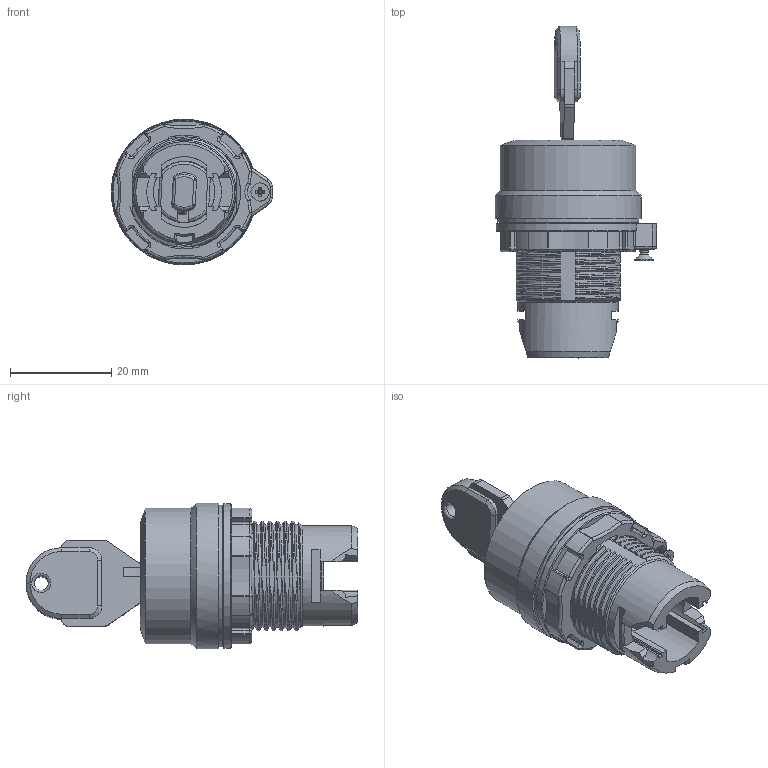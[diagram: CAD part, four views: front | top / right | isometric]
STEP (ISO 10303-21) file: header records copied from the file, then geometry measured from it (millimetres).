
FILE_DESCRIPTION(/* description */ (''),/* implementation_level */ '2;1');
FILE_NAME(/* name */ 'Y1钥匙钮头部.stp',/* time_stamp */ '2024-05-17T18:33:41+08:00',/* author */ (''),/* organization */ (''),/* preprocessor_version */ 'ST-DEVELOPER v16',/* originating_system */ 'SIEMENS PLM Software NX 10.0',/* authorisation */ '');
FILE_SCHEMA (('AUTOMOTIVE_DESIGN { 1 0 10303 214 3 1 1 1 }'));
Length unit declared in the file: millimetre
Products named in the file (1): Admi20CC3240luko
Bounding box: 31.9 x 65.6 x 28.8 mm (x, y, z)
Volume: 1112 mm3; surface area: 13303.3 mm2
Topology: 2 solids, 3 shells, 1148 faces, 3244 edges, 2090 vertices
Faces by surface type: plane 497, cylinder 393, bspline 141, revolution 71, cone 46
Full cylindrical faces by diameter (mm): 1.6 x1, 2.8 x1, 3.6 x1, 12.2 x1, 15.6 x1, 16.8 x1, 17.8 x1, 19 x1, 19.9 x1, 20.2 x2, 20.5 x1, 20.6 x1, 21.8 x1, 22.5 x1, 23 x1, 26.8 x2, 26.85 x2, 28 x1, 28.8 x1
Entity records: 140923 total; most frequent: CARTESIAN_POINT 104450, ORIENTED_EDGE 6312, DIRECTION 5428, EDGE_CURVE 3156, VERTEX_POINT 2065, AXIS2_PLACEMENT_3D 1940, LINE 1477, VECTOR 1477
